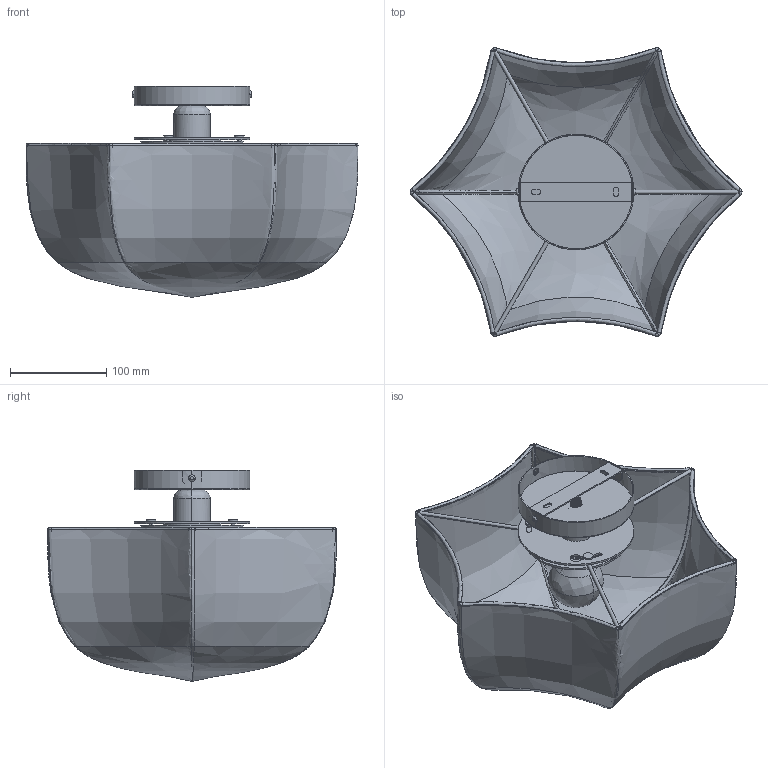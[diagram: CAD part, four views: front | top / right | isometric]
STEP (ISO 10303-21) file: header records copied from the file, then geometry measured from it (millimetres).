
FILE_DESCRIPTION(/* description */ (''),/* implementation_level */ '2;1');
FILE_NAME(/* name */ 'Poem wall:ceiling Ø36_3D',/* time_stamp */ '2023-03-23T11:38:42+01:00',/* author */ (''),/* organization */ (''),/* preprocessor_version */ 'ST-DEVELOPER v16.5',/* originating_system */ 'Rhino 7.28',/* authorisation */ '');
FILE_SCHEMA (('CONFIG_CONTROL_DESIGN'));
Length unit declared in the file: millimetre
Products named in the file (1): Document
Bounding box: 344.16 x 299.29 x 218.75 mm (x, y, z)
Volume: 230375.5 mm3; surface area: 336914.9 mm2
Topology: 24 solids, 28 shells, 577 faces, 1215 edges, 648 vertices
Faces by surface type: bspline 441, cylinder 81, plane 55
Entity records: 21174 total; most frequent: CARTESIAN_POINT 14407, ORIENTED_EDGE 2346, EDGE_CURVE 1180, VERTEX_POINT 647, EDGE_LOOP 605, ADVANCED_FACE 577, FACE_OUTER_BOUND 577, B_SPLINE_CURVE_WITH_KNOTS 242
